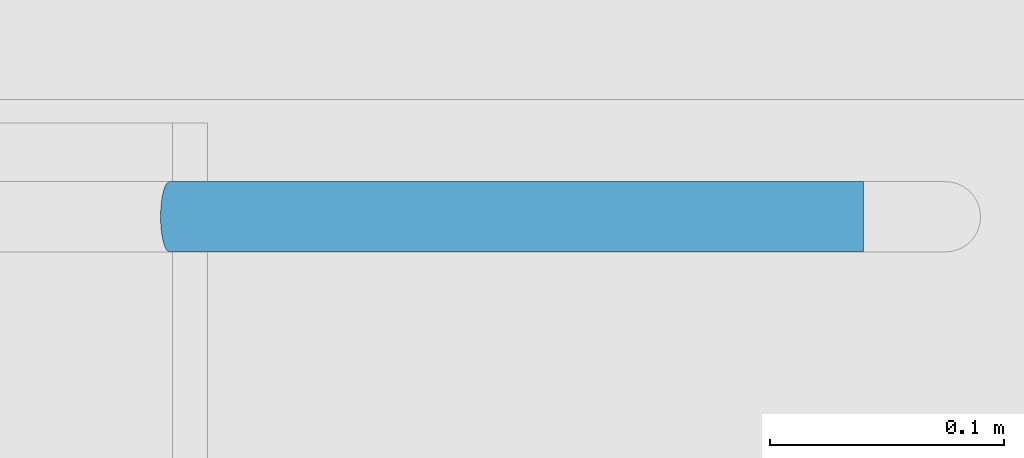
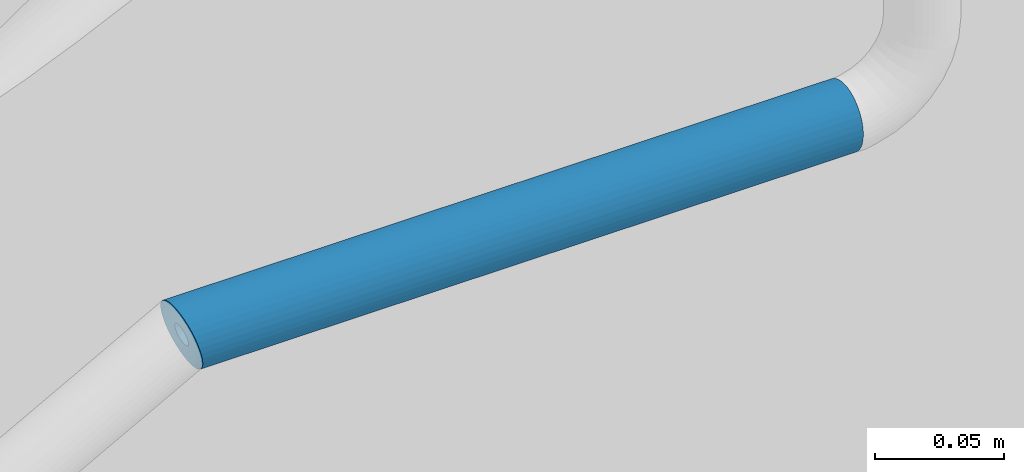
# One storey, part 220 of 301: 1 building element part, 1 element without a shape of its own.
"""IFC2X3 building model written with IfcOpenShell, lengths in millimetres."""

from ifc_helpers import new_model, entity, si_unit, converted_unit, derived_unit, money_unit, direction, frame, origin_with_axes, place, context, subcontext, project, spatial, faceted_brep, material, type_object, element, aggregate, save


model = new_model("IFC2X3")

# Units and contexts
model_context = context("Model", 3, precision=0.01, world=origin_with_axes(), true_north=direction((0.0, 1.0)))
body_context = subcontext(model_context, "Body", "Model", "MODEL_VIEW")
ifc_project = project(units=[si_unit("LENGTHUNIT", "METRE", prefix="MILLI"), si_unit("AREAUNIT", "SQUARE_METRE"), si_unit("VOLUMEUNIT", "CUBIC_METRE"), converted_unit("PLANEANGLEUNIT", "DEGREE", entity("IfcPlaneAngleMeasure", 0.0174532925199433), si_unit("PLANEANGLEUNIT", "RADIAN"), dimensions=[0, 0, 0, 0, 0, 0, 0]), money_unit("EUR"), converted_unit("TIMEUNIT", "Year", entity("IfcTimeMeasure", 31557600.0), si_unit("TIMEUNIT", "SECOND"), dimensions=[0, 0, 1, 0, 0, 0, 0]), si_unit("MASSUNIT", "GRAM", prefix="KILO"), si_unit("THERMODYNAMICTEMPERATUREUNIT", "DEGREE_CELSIUS"), si_unit("LUMINOUSINTENSITYUNIT", "LUMEN"), si_unit("ENERGYUNIT", "JOULE", prefix="MEGA"), derived_unit("THERMALCONDUCTANCEUNIT", [(si_unit("POWERUNIT", "WATT"), 1), (si_unit("LENGTHUNIT", "METRE"), -1), (si_unit("THERMODYNAMICTEMPERATUREUNIT", "KELVIN"), -1)]), derived_unit("SPECIFICHEATCAPACITYUNIT", [(si_unit("ENERGYUNIT", "JOULE"), 1), (si_unit("MASSUNIT", "GRAM", prefix="KILO"), -1), (si_unit("THERMODYNAMICTEMPERATUREUNIT", "KELVIN"), -1)]), derived_unit("MASSDENSITYUNIT", [(si_unit("MASSUNIT", "GRAM", prefix="KILO"), 1), (si_unit("VOLUMEUNIT", "CUBIC_METRE"), -1)])], contexts=[model_context])

# Site, building, storey
site_placement = place(None, frame((0.0, 0.0, 8650.0), z_axis=(0.0, 0.0, 1.0), x_axis=(1.0, 0.0, 0.0)))
site = spatial("IfcSite", under=ifc_project, at=site_placement, Name="43301:001:0844", CompositionType="ELEMENT")
building_placement = place(site_placement, origin_with_axes())
building = spatial("IfcBuilding", under=site, at=building_placement, Name="Kuressaare Ametikooli tuulikute mehaanikute õppekorpus", CompositionType="ELEMENT")
storey_placement = place(building_placement, origin_with_axes())
storey = spatial("IfcBuildingStorey", under=building, at=storey_placement, Name="1.korrus", CompositionType="ELEMENT", Elevation=0.0)

# Railing, building element part
railing_type = type_object("IfcRailingType", Name="Railing Type", PredefinedType="NOTDEFINED")
railing_placement = place(storey_placement, frame((107882.9493746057, 28359.57374875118, 157.6923606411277), z_axis=(0.0, 0.0, 1.0), x_axis=(1.0, 0.0, 0.0)))
railing = element("IfcRailing", 1, at=railing_placement, inside=storey, type_object=railing_type, Name="Piire", PredefinedType="NOTDEFINED")
ifc_material = material(Name="Metall - Teras - Roostevaba")
building_element_part_placement = place(railing_placement, origin_with_axes())
building_element_part = element("IfcBuildingElementPart", 2, at=building_element_part_placement, material=ifc_material, Name="Metall - Teras - Roostevaba", context=body_context, shape_type="Brep", body=[
    faceted_brep([(7437.967820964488, -35.0000000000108, 4627.307692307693), (7437.305437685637, -35.22788370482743, 4629.912414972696), (7734.153307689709, -35.22788370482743, 4629.912414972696), (7734.153307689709, -35.0000000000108, 4627.307692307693), (7438.630204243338, -35.22788370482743, 4624.702969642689), (7439.272461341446, -35.90461068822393, 4622.177390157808), (7439.875077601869, -37.0096189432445, 4619.807692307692), (7440.419742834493, -38.50933335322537, 4617.665878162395), (7440.889907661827, -40.35818585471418, 4615.817025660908), (7441.271286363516, -42.50000000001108, 4614.317311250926), (7441.552290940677, -44.86969785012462, 4613.212302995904), (7441.724383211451, -47.39527733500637, 4612.535576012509), (7441.782334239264, -50.00000000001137, 4612.307692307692), (7441.724383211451, -52.60472266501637, 4612.535576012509), (7441.552290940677, -55.13030214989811, 4613.212302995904), (7441.271286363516, -57.50000000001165, 4614.317311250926), (7440.889907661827, -59.64181414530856, 4615.817025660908), (7440.419742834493, -61.49066664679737, 4617.665878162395), (7439.875077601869, -62.99038105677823, 4619.807692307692), (7439.272461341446, -64.09538931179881, 4622.177390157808), (7438.630204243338, -64.7721162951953, 4624.702969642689), (7437.967820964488, -65.00000000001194, 4627.307692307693), (7437.305437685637, -64.7721162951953, 4629.912414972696), (7436.66318058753, -64.09538931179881, 4632.437994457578), (7436.060564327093, -62.99038105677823, 4634.807692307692), (7435.515899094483, -61.49066664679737, 4636.949506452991), (7435.045734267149, -59.64181414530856, 4638.798358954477), (7434.664355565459, -57.50000000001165, 4640.298073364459), (7434.383350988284, -55.13030214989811, 4641.403081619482), (7434.211258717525, -52.60472266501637, 4642.079808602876), (7434.153307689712, -50.00000000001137, 4642.307692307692), (7434.211258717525, -47.39527733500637, 4642.079808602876), (7434.383350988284, -44.86969785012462, 4641.403081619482), (7434.664355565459, -42.50000000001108, 4640.298073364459), (7435.045734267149, -40.35818585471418, 4638.798358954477), (7435.515899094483, -38.50933335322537, 4636.949506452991), (7436.060564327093, -37.0096189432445, 4634.807692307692), (7436.66318058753, -35.90461068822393, 4632.437994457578), (7437.967820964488, -45.00000000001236, 4627.307692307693), (7437.747026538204, -45.07596123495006, 4628.175933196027), (7437.532940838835, -45.30153689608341, 4629.017793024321), (7437.332068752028, -45.66987298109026, 4629.807692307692), (7437.150513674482, -46.16977778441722, 4630.521630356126), (7436.993792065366, -46.78606195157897, 4631.137914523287), (7436.866665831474, -47.50000000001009, 4631.637819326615), (7436.772997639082, -48.28989928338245, 4632.006155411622), (7436.715633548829, -49.13175911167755, 4632.231731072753), (7436.696316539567, -50.00000000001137, 4632.307692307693), (7436.715633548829, -50.86824088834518, 4632.231731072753), (7436.772997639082, -51.71010071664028, 4632.006155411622), (7436.866665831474, -52.50000000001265, 4631.637819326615), (7436.993792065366, -53.21393804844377, 4631.137914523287), (7437.150513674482, -53.83022221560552, 4630.521630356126), (7437.332068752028, -54.33012701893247, 4629.807692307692), (7437.532940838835, -54.69846310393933, 4629.017793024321), (7437.747026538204, -54.92403876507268, 4628.175933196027), (7437.967820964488, -55.00000000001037, 4627.307692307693), (7438.188615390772, -54.92403876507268, 4626.439451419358), (7438.402701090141, -54.69846310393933, 4625.597591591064), (7438.603573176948, -54.33012701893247, 4624.807692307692), (7438.785128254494, -53.83022221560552, 4624.09375425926), (7438.941849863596, -53.21393804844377, 4623.477470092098), (7439.068976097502, -52.50000000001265, 4622.97756528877), (7439.16264428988, -51.71010071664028, 4622.609229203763), (7439.220008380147, -50.86824088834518, 4622.383653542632), (7439.239325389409, -50.00000000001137, 4622.307692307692), (7439.220008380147, -49.13175911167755, 4622.383653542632), (7439.16264428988, -48.28989928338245, 4622.609229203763), (7439.068976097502, -47.50000000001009, 4622.97756528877), (7438.941849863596, -46.78606195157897, 4623.477470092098), (7438.785128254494, -46.16977778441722, 4624.09375425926), (7438.603573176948, -45.66987298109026, 4624.807692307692), (7438.402701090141, -45.30153689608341, 4625.597591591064), (7438.188615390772, -45.07596123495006, 4626.439451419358), (7734.153307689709, -35.90461068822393, 4632.437994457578), (7734.153307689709, -37.0096189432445, 4634.807692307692), (7734.153307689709, -38.50933335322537, 4636.949506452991), (7734.153307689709, -40.35818585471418, 4638.798358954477), (7734.153307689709, -42.50000000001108, 4640.298073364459), (7734.153307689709, -44.86969785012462, 4641.403081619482), (7734.153307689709, -47.39527733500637, 4642.079808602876), (7734.153307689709, -50.00000000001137, 4642.307692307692), (7734.153307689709, -52.60472266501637, 4642.079808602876), (7734.153307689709, -55.13030214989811, 4641.403081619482), (7734.153307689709, -57.50000000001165, 4640.298073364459), (7734.153307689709, -59.64181414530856, 4638.798358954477), (7734.153307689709, -61.49066664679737, 4636.949506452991), (7734.153307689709, -62.99038105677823, 4634.807692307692), (7734.153307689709, -64.09538931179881, 4632.437994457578), (7734.153307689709, -64.7721162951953, 4629.912414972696), (7734.153307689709, -65.00000000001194, 4627.307692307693), (7734.153307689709, -64.7721162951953, 4624.702969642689), (7734.153307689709, -64.09538931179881, 4622.177390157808), (7734.153307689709, -62.99038105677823, 4619.807692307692), (7734.153307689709, -61.49066664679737, 4617.665878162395), (7734.153307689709, -59.64181414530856, 4615.817025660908), (7734.153307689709, -57.50000000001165, 4614.317311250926), (7734.153307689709, -55.13030214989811, 4613.212302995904), (7734.153307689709, -52.60472266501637, 4612.535576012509), (7734.153307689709, -50.00000000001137, 4612.307692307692), (7734.153307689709, -47.39527733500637, 4612.535576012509), (7734.153307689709, -44.86969785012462, 4613.212302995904), (7734.153307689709, -42.50000000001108, 4614.317311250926), (7734.153307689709, -40.35818585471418, 4615.817025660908), (7734.153307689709, -38.50933335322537, 4617.665878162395), (7734.153307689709, -37.0096189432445, 4619.807692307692), (7734.153307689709, -35.90461068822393, 4622.177390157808), (7734.153307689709, -35.22788370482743, 4624.702969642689), (7734.153307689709, -45.00000000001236, 4627.307692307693), (7734.153307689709, -45.07596123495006, 4626.439451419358), (7734.153307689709, -45.30153689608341, 4625.597591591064), (7734.153307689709, -45.66987298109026, 4624.807692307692), (7734.153307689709, -46.16977778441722, 4624.09375425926), (7734.153307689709, -46.78606195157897, 4623.477470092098), (7734.153307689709, -47.50000000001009, 4622.97756528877), (7734.153307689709, -48.28989928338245, 4622.609229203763), (7734.153307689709, -49.13175911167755, 4622.383653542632), (7734.153307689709, -50.00000000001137, 4622.307692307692), (7734.153307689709, -50.86824088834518, 4622.383653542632), (7734.153307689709, -51.71010071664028, 4622.609229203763), (7734.153307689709, -52.50000000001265, 4622.97756528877), (7734.153307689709, -53.21393804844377, 4623.477470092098), (7734.153307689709, -53.83022221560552, 4624.09375425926), (7734.153307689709, -54.33012701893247, 4624.807692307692), (7734.153307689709, -54.69846310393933, 4625.597591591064), (7734.153307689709, -54.92403876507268, 4626.439451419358), (7734.153307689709, -55.00000000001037, 4627.307692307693), (7734.153307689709, -54.92403876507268, 4628.175933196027), (7734.153307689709, -54.69846310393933, 4629.017793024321), (7734.153307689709, -54.33012701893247, 4629.807692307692), (7734.153307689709, -53.83022221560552, 4630.521630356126), (7734.153307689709, -53.21393804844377, 4631.137914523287), (7734.153307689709, -52.50000000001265, 4631.637819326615), (7734.153307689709, -51.71010071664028, 4632.006155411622), (7734.153307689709, -50.86824088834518, 4632.231731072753), (7734.153307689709, -50.00000000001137, 4632.307692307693), (7734.153307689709, -49.13175911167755, 4632.231731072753), (7734.153307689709, -48.28989928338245, 4632.006155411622), (7734.153307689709, -47.50000000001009, 4631.637819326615), (7734.153307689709, -46.78606195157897, 4631.137914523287), (7734.153307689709, -46.16977778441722, 4630.521630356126), (7734.153307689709, -45.66987298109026, 4629.807692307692), (7734.153307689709, -45.30153689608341, 4629.017793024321), (7734.153307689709, -45.07596123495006, 4628.175933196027)], [[[0, 1, 2, 3]], [[0, 4, 5, 6, 7, 8, 9, 10, 11, 12, 13, 14, 15, 16, 17, 18, 19, 20, 21, 22, 23, 24, 25, 26, 27, 28, 29, 30, 31, 32, 33, 34, 35, 36, 37, 1], [38, 39, 40, 41, 42, 43, 44, 45, 46, 47, 48, 49, 50, 51, 52, 53, 54, 55, 56, 57, 58, 59, 60, 61, 62, 63, 64, 65, 66, 67, 68, 69, 70, 71, 72, 73]], [[1, 37, 74, 2]], [[3, 2, 74, 75, 76, 77, 78, 79, 80, 81, 82, 83, 84, 85, 86, 87, 88, 89, 90, 91, 92, 93, 94, 95, 96, 97, 98, 99, 100, 101, 102, 103, 104, 105, 106, 107], [108, 109, 110, 111, 112, 113, 114, 115, 116, 117, 118, 119, 120, 121, 122, 123, 124, 125, 126, 127, 128, 129, 130, 131, 132, 133, 134, 135, 136, 137, 138, 139, 140, 141, 142, 143]], [[4, 0, 3, 107]], [[5, 4, 107, 106]], [[6, 5, 106, 105]], [[7, 6, 105, 104]], [[8, 7, 104, 103]], [[9, 8, 103, 102]], [[10, 9, 102, 101]], [[11, 10, 101, 100]], [[12, 11, 100, 99]], [[13, 12, 99, 98]], [[14, 13, 98, 97]], [[15, 14, 97, 96]], [[16, 15, 96, 95]], [[17, 16, 95, 94]], [[18, 17, 94, 93]], [[19, 18, 93, 92]], [[20, 19, 92, 91]], [[21, 20, 91, 90]], [[22, 21, 90, 89]], [[23, 22, 89, 88]], [[24, 23, 88, 87]], [[25, 24, 87, 86]], [[26, 25, 86, 85]], [[27, 26, 85, 84]], [[28, 27, 84, 83]], [[29, 28, 83, 82]], [[30, 29, 82, 81]], [[31, 30, 81, 80]], [[32, 31, 80, 79]], [[33, 32, 79, 78]], [[34, 33, 78, 77]], [[35, 34, 77, 76]], [[36, 35, 76, 75]], [[37, 36, 75, 74]], [[39, 38, 108, 143]], [[40, 39, 143, 142]], [[41, 40, 142, 141]], [[42, 41, 141, 140]], [[43, 42, 140, 139]], [[44, 43, 139, 138]], [[45, 44, 138, 137]], [[46, 45, 137, 136]], [[47, 46, 136, 135]], [[48, 47, 135, 134]], [[49, 48, 134, 133]], [[50, 49, 133, 132]], [[51, 50, 132, 131]], [[52, 51, 131, 130]], [[53, 52, 130, 129]], [[54, 53, 129, 128]], [[55, 54, 128, 127]], [[56, 55, 127, 126]], [[57, 56, 126, 125]], [[58, 57, 125, 124]], [[59, 58, 124, 123]], [[60, 59, 123, 122]], [[61, 60, 122, 121]], [[62, 61, 121, 120]], [[63, 62, 120, 119]], [[64, 63, 119, 118]], [[65, 64, 118, 117]], [[66, 65, 117, 116]], [[67, 66, 116, 115]], [[68, 67, 115, 114]], [[69, 68, 114, 113]], [[70, 69, 113, 112]], [[71, 70, 112, 111]], [[72, 71, 111, 110]], [[73, 72, 110, 109]], [[38, 73, 109, 108]]]),
])
aggregate(railing, [building_element_part])

save(model, "model.ifc")
